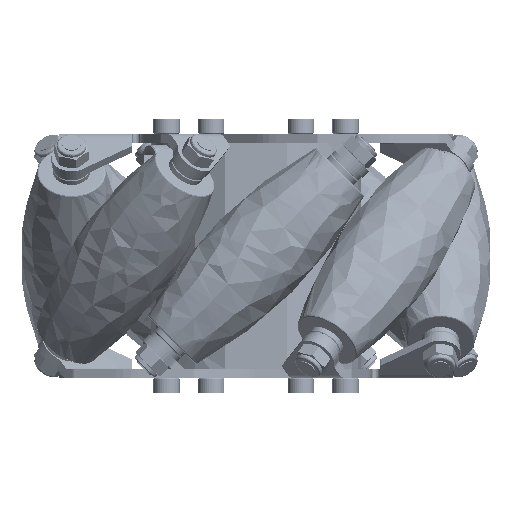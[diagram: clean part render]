
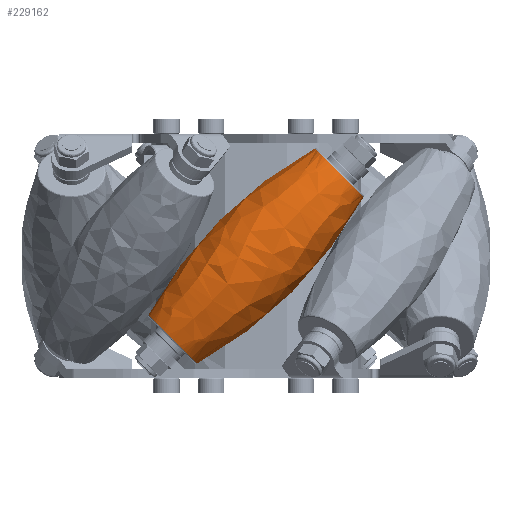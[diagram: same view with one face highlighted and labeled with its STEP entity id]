
A CAD part, left-side view. The second image highlights one B-rep face of the part: STEP entity #229162.
In plain terms, the highlighted free-form (B-spline) face has degree [3, 3] with [4, 4] control points.
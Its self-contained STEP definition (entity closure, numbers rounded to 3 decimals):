
#229162 = ADVANCED_FACE('',(#229163),#229178,.F.);
#229163 = FACE_BOUND('',#229164,.F.);
#229164 = EDGE_LOOP('',(#229165,#229200,#229216,#229232));
#229165 = ORIENTED_EDGE('',*,*,#229166,.T.);
#229166 = EDGE_CURVE('',#229167,#229169,#229171,.T.);
#229167 = VERTEX_POINT('',#229168);
#229168 = CARTESIAN_POINT('',(19.101,-59.7,
    34.835));
#229169 = VERTEX_POINT('',#229170);
#229170 = CARTESIAN_POINT('',(34.835,-59.7,
    19.101));
#229171 = SURFACE_CURVE('',#229172,(#229177),.PCURVE_S1.);
#229172 = ( BOUNDED_CURVE() B_SPLINE_CURVE(3,(#229173,#229174,#229175,
#229176),.UNSPECIFIED.,.F.,.F.) B_SPLINE_CURVE_WITH_KNOTS((4,4),(0.,1.),
.PIECEWISE_BEZIER_KNOTS.) CURVE() GEOMETRIC_REPRESENTATION_ITEM() 
RATIONAL_B_SPLINE_CURVE((1.,0.333,0.333,1.)) 
REPRESENTATION_ITEM('') );
#229173 = CARTESIAN_POINT('',(19.101,-59.7,34.835));
#229174 = CARTESIAN_POINT('',(19.101,-81.951,34.835));
#229175 = CARTESIAN_POINT('',(34.835,-81.951,19.101));
#229176 = CARTESIAN_POINT('',(34.835,-59.7,19.101));
#229177 = PCURVE('',#229178,#229195);
#229178 = ( BOUNDED_SURFACE() B_SPLINE_SURFACE(3,3,(
    (#229179,#229180,#229181,#229182)
    ,(#229183,#229184,#229185,#229186)
    ,(#229187,#229188,#229189,#229190)
    ,(#229191,#229192,#229193,#229194
)),.UNSPECIFIED.,.F.,.F.,.F.) B_SPLINE_SURFACE_WITH_KNOTS((4,4),(4,4),(
    0.,1.),(0.,1.),.PIECEWISE_BEZIER_KNOTS.) 
GEOMETRIC_REPRESENTATION_ITEM() RATIONAL_B_SPLINE_SURFACE((
    (1.,0.333,0.333,1.)
    ,(0.974,0.325,0.325,0.974)
    ,(0.974,0.325,0.325,0.974)
,(1.,0.333,0.333,1.
))) REPRESENTATION_ITEM('') SURFACE() );
#229179 = CARTESIAN_POINT('',(-34.835,-59.7,-19.101));
#229180 = CARTESIAN_POINT('',(-34.835,-81.951,-19.101)
  );
#229181 = CARTESIAN_POINT('',(-19.101,-81.951,-34.835)
  );
#229182 = CARTESIAN_POINT('',(-19.101,-59.7,-34.835));
#229183 = CARTESIAN_POINT('',(-22.197,-59.7,3.739));
#229184 = CARTESIAN_POINT('',(-22.197,-96.379,3.739));
#229185 = CARTESIAN_POINT('',(3.739,-96.379,-22.197));
#229186 = CARTESIAN_POINT('',(3.739,-59.7,-22.197));
#229187 = CARTESIAN_POINT('',(-3.739,-59.7,22.197));
#229188 = CARTESIAN_POINT('',(-3.739,-96.379,22.197));
#229189 = CARTESIAN_POINT('',(22.197,-96.379,-3.739));
#229190 = CARTESIAN_POINT('',(22.197,-59.7,-3.739));
#229191 = CARTESIAN_POINT('',(19.101,-59.7,34.835));
#229192 = CARTESIAN_POINT('',(19.101,-81.951,34.835));
#229193 = CARTESIAN_POINT('',(34.835,-81.951,19.101));
#229194 = CARTESIAN_POINT('',(34.835,-59.7,19.101));
#229195 = DEFINITIONAL_REPRESENTATION('',(#229196),#229199);
#229196 = B_SPLINE_CURVE_WITH_KNOTS('',1,(#229197,#229198),
  .UNSPECIFIED.,.F.,.F.,(2,2),(0.,1.),.PIECEWISE_BEZIER_KNOTS.);
#229197 = CARTESIAN_POINT('',(1.,0.));
#229198 = CARTESIAN_POINT('',(1.,1.));
#229199 = ( GEOMETRIC_REPRESENTATION_CONTEXT(2) 
PARAMETRIC_REPRESENTATION_CONTEXT() REPRESENTATION_CONTEXT('2D SPACE',''
  ) );
#229200 = ORIENTED_EDGE('',*,*,#229201,.T.);
#229201 = EDGE_CURVE('',#229169,#229202,#229204,.T.);
#229202 = VERTEX_POINT('',#229203);
#229203 = CARTESIAN_POINT('',(-19.101,-59.7,
    -34.835));
#229204 = SURFACE_CURVE('',#229205,(#229210),.PCURVE_S1.);
#229205 = CIRCLE('',#229206,138.);
#229206 = AXIS2_PLACEMENT_3D('',#229207,#229208,#229209);
#229207 = CARTESIAN_POINT('',(-85.913,-59.7,
    85.913));
#229208 = DIRECTION('',(0.,1.,0.));
#229209 = DIRECTION('',(0.875,0.,
    -0.484));
#229210 = PCURVE('',#229178,#229211);
#229211 = DEFINITIONAL_REPRESENTATION('',(#229212),#229215);
#229212 = B_SPLINE_CURVE_WITH_KNOTS('',1,(#229213,#229214),
  .UNSPECIFIED.,.F.,.F.,(2,2),(0.,0.56),
  .PIECEWISE_BEZIER_KNOTS.);
#229213 = CARTESIAN_POINT('',(1.,1.));
#229214 = CARTESIAN_POINT('',(0.,1.));
#229215 = ( GEOMETRIC_REPRESENTATION_CONTEXT(2) 
PARAMETRIC_REPRESENTATION_CONTEXT() REPRESENTATION_CONTEXT('2D SPACE',''
  ) );
#229216 = ORIENTED_EDGE('',*,*,#229217,.T.);
#229217 = EDGE_CURVE('',#229202,#229218,#229220,.T.);
#229218 = VERTEX_POINT('',#229219);
#229219 = CARTESIAN_POINT('',(-34.835,-59.7,
    -19.101));
#229220 = SURFACE_CURVE('',#229221,(#229226),.PCURVE_S1.);
#229221 = ( BOUNDED_CURVE() B_SPLINE_CURVE(3,(#229222,#229223,#229224,
#229225),.UNSPECIFIED.,.F.,.F.) B_SPLINE_CURVE_WITH_KNOTS((4,4),(0.,1.),
.PIECEWISE_BEZIER_KNOTS.) CURVE() GEOMETRIC_REPRESENTATION_ITEM() 
RATIONAL_B_SPLINE_CURVE((1.,0.333,0.333,1.)) 
REPRESENTATION_ITEM('') );
#229222 = CARTESIAN_POINT('',(-19.101,-59.7,-34.835));
#229223 = CARTESIAN_POINT('',(-19.101,-81.951,-34.835)
  );
#229224 = CARTESIAN_POINT('',(-34.835,-81.951,-19.101)
  );
#229225 = CARTESIAN_POINT('',(-34.835,-59.7,-19.101));
#229226 = PCURVE('',#229178,#229227);
#229227 = DEFINITIONAL_REPRESENTATION('',(#229228),#229231);
#229228 = B_SPLINE_CURVE_WITH_KNOTS('',1,(#229229,#229230),
  .UNSPECIFIED.,.F.,.F.,(2,2),(0.,1.),.PIECEWISE_BEZIER_KNOTS.);
#229229 = CARTESIAN_POINT('',(0.,1.));
#229230 = CARTESIAN_POINT('',(0.,0.));
#229231 = ( GEOMETRIC_REPRESENTATION_CONTEXT(2) 
PARAMETRIC_REPRESENTATION_CONTEXT() REPRESENTATION_CONTEXT('2D SPACE',''
  ) );
#229232 = ORIENTED_EDGE('',*,*,#229233,.T.);
#229233 = EDGE_CURVE('',#229218,#229167,#229234,.T.);
#229234 = SURFACE_CURVE('',#229235,(#229240),.PCURVE_S1.);
#229235 = CIRCLE('',#229236,138.);
#229236 = AXIS2_PLACEMENT_3D('',#229237,#229238,#229239);
#229237 = CARTESIAN_POINT('',(85.913,-59.7,
    -85.913));
#229238 = DIRECTION('',(0.,1.,0.));
#229239 = DIRECTION('',(-0.875,0.,
    0.484));
#229240 = PCURVE('',#229178,#229241);
#229241 = DEFINITIONAL_REPRESENTATION('',(#229242),#229245);
#229242 = B_SPLINE_CURVE_WITH_KNOTS('',1,(#229243,#229244),
  .UNSPECIFIED.,.F.,.F.,(2,2),(0.,0.56),
  .PIECEWISE_BEZIER_KNOTS.);
#229243 = CARTESIAN_POINT('',(0.,0.));
#229244 = CARTESIAN_POINT('',(1.,0.));
#229245 = ( GEOMETRIC_REPRESENTATION_CONTEXT(2) 
PARAMETRIC_REPRESENTATION_CONTEXT() REPRESENTATION_CONTEXT('2D SPACE',''
  ) );
